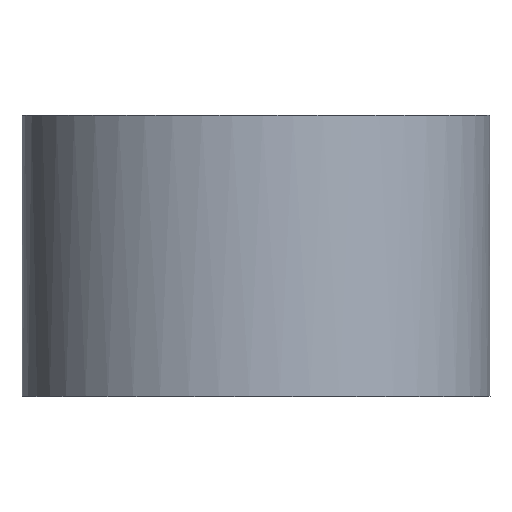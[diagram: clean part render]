
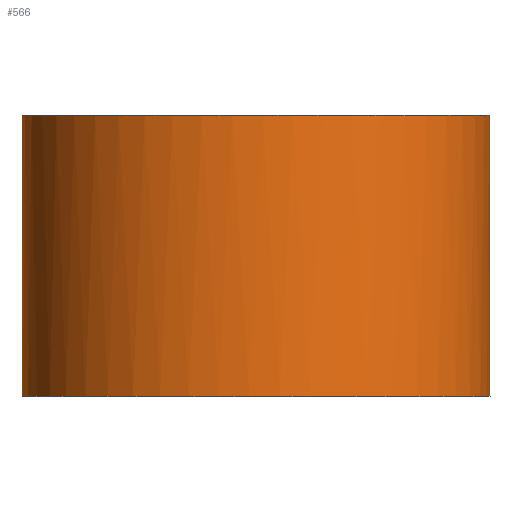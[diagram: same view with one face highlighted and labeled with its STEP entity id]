
A CAD part, top view. The second image highlights one B-rep face of the part: STEP entity #566.
In plain terms, the highlighted free-form (B-spline) face has degree [1, 2] with [2, 7] control points.
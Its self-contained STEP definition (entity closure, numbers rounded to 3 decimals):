
#15=(
BOUNDED_SURFACE()
B_SPLINE_SURFACE(1,2,((#918,#919,#920,#921,#922,#923,#924),(#925,#926,#927,
#928,#929,#930,#931)),.UNSPECIFIED.,.F.,.F.,.F.)
B_SPLINE_SURFACE_WITH_KNOTS((2,2),(3,2,2,3),(-0.6,0.6),(-3.902,
-2.348,-0.794,0.761),.UNSPECIFIED.)
GEOMETRIC_REPRESENTATION_ITEM()
RATIONAL_B_SPLINE_SURFACE(((1.,0.713,1.,0.713,1.,
0.713,1.),(1.,0.713,1.,0.713,1.,0.713,
1.)))
REPRESENTATION_ITEM('')
SURFACE()
);
#36=ELLIPSE('',#581,17.5,15.6);
#37=ELLIPSE('',#585,17.5,15.6);
#65=FACE_OUTER_BOUND('',#105,.T.);
#105=EDGE_LOOP('',(#476,#477,#478,#479));
#170=LINE('',#932,#234);
#171=LINE('',#933,#235);
#234=VECTOR('',#756,10.);
#235=VECTOR('',#757,10.);
#243=VERTEX_POINT('',#781);
#244=VERTEX_POINT('',#783);
#258=VERTEX_POINT('',#816);
#259=VERTEX_POINT('',#818);
#296=EDGE_CURVE('',#243,#244,#36,.T.);
#313=EDGE_CURVE('',#258,#259,#37,.T.);
#360=EDGE_CURVE('',#259,#243,#170,.T.);
#361=EDGE_CURVE('',#244,#258,#171,.T.);
#476=ORIENTED_EDGE('',*,*,#360,.F.);
#477=ORIENTED_EDGE('',*,*,#313,.F.);
#478=ORIENTED_EDGE('',*,*,#361,.F.);
#479=ORIENTED_EDGE('',*,*,#296,.F.);
#566=ADVANCED_FACE('',(#65),#15,.F.);
#581=AXIS2_PLACEMENT_3D('',#784,#632,#633);
#585=AXIS2_PLACEMENT_3D('',#819,#656,#657);
#632=DIRECTION('center_axis',(0.,-1.,0.));
#633=DIRECTION('ref_axis',(1.,0.,0.));
#656=DIRECTION('center_axis',(0.,1.,0.));
#657=DIRECTION('ref_axis',(1.,0.,0.));
#756=DIRECTION('',(0.,-1.,0.));
#757=DIRECTION('',(0.,1.,0.));
#781=CARTESIAN_POINT('',(12.678,-10.5,9.847));
#783=CARTESIAN_POINT('',(-12.678,-10.5,9.847));
#784=CARTESIAN_POINT('Origin',(0.,-10.5,20.6));
#816=CARTESIAN_POINT('',(-12.678,10.5,9.847));
#818=CARTESIAN_POINT('',(12.678,10.5,9.847));
#819=CARTESIAN_POINT('Origin',(0.,10.5,20.6));
#918=CARTESIAN_POINT('Ctrl Pts',(-12.678,-10.5,9.847));
#919=CARTESIAN_POINT('Ctrl Pts',(-24.543,-10.5,20.963));
#920=CARTESIAN_POINT('Ctrl Pts',(-12.271,-10.5,31.722));
#921=CARTESIAN_POINT('Ctrl Pts',(0.,-10.5,42.481));
#922=CARTESIAN_POINT('Ctrl Pts',(12.271,-10.5,31.722));
#923=CARTESIAN_POINT('Ctrl Pts',(24.543,-10.5,20.963));
#924=CARTESIAN_POINT('Ctrl Pts',(12.678,-10.5,9.847));
#925=CARTESIAN_POINT('Ctrl Pts',(-12.678,10.5,9.847));
#926=CARTESIAN_POINT('Ctrl Pts',(-24.543,10.5,20.963));
#927=CARTESIAN_POINT('Ctrl Pts',(-12.271,10.5,31.722));
#928=CARTESIAN_POINT('Ctrl Pts',(0.,10.5,42.481));
#929=CARTESIAN_POINT('Ctrl Pts',(12.271,10.5,31.722));
#930=CARTESIAN_POINT('Ctrl Pts',(24.543,10.5,20.963));
#931=CARTESIAN_POINT('Ctrl Pts',(12.678,10.5,9.847));
#932=CARTESIAN_POINT('',(12.678,0.,9.847));
#933=CARTESIAN_POINT('',(-12.678,0.,9.847));
